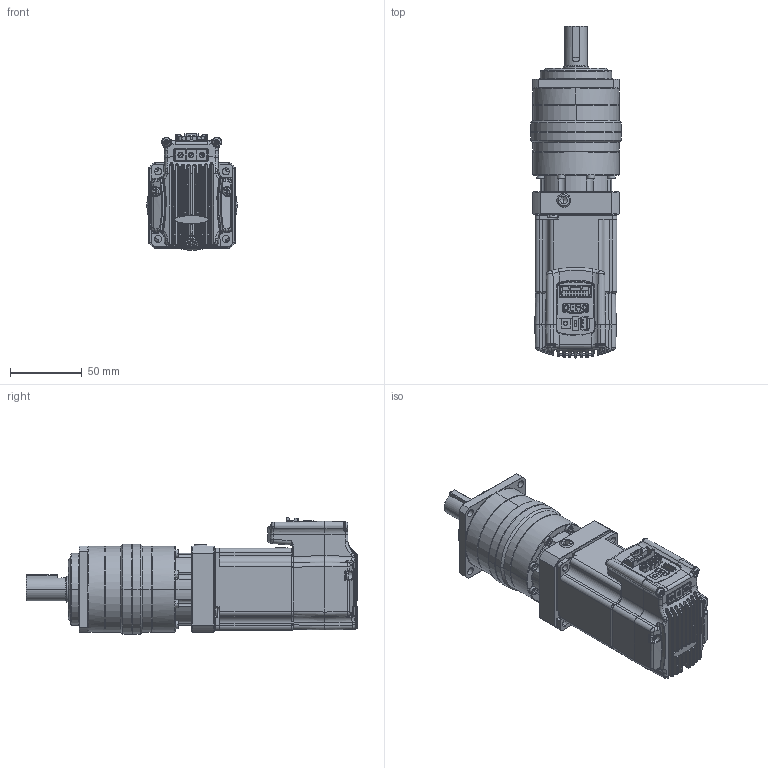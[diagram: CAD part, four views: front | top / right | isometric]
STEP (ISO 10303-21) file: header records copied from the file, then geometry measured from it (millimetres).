
FILE_DESCRIPTION (( 'STEP AP203' ), '1' );
FILE_NAME ('130416 Ezi-SERVO PG-ALL-56M-PN15~50.STEP', '2013-04-17T01:29:47', ( '' ), ( '' ), 'SwSTEP 2.0', 'SolidWorks 2012', '' );
FILE_SCHEMA (( 'CONFIG_CONTROL_DESIGN' ));
Products named in the file (44): 130416 Ezi-SERVO PG-ALL-56M-PN15~50; ST56 2ST; M3 TAPPING SCREW.2_6; M3 TAPPING SCREW.1_6; M3 MACHIN SCREW.3_1; M3 MACHIN SCREW.2_1; M3 MACHIN SCREW.1_1; CASE RR-TYPE B_1; CASE FRT_5; NAME PLATE_5; CONNECTOR PCB_5; DISPLAY PCB_5; POWER PARTS.7_5; POWER PARTS.6_5; POWER PARTS.5_5; POWER PARTS.4_5; POWER PARTS.3_5; POWER PARTS.2_5; POWER PARTS.1_5; MAIN PCB.2_5; MAIN PCB.1_5; _X2_D30CD2B8_X0_80_5; _X2_D30CD2B8_X0_79_5; _X2_D30CD2B8_X0_78_5; _X2_D30CD2B8_X0_75_6_2; _X2_D30CD2B8_X0_75_6; _X2_D30CD2B8_X0_73_6_2; _X2_D30CD2B8_X0_73_6; _X2_D30CD2B8_X0_69_5; MSBR_5; UPPER COVER_5; TRM_SRF_5; _X2_D30CD2B8_X0_115_1; _X2_D30CD2B8_X0_96_7_3; _X2_D30CD2B8_X0_94_7_3; _X2_D30CD2B8_X0_96_7_2; _X2_D30CD2B8_X0_94_7_2; _X2_D30CD2B8_X0_96_7; _X2_D30CD2B8_X0_94_7; F191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
Assembly tree (43 placements, depth 2):
  130416 Ezi-SERVO PG-ALL-56M-PN15~50
    F123
    F134
    F153
    F172
    F191
    _X2_D30CD2B8_X0_94_7
    _X2_D30CD2B8_X0_96_7
    _X2_D30CD2B8_X0_94_7_2
    _X2_D30CD2B8_X0_96_7_2
    _X2_D30CD2B8_X0_94_7_3
    _X2_D30CD2B8_X0_96_7_3
    _X2_D30CD2B8_X0_115_1
    TRM_SRF_5
    UPPER COVER_5
    MSBR_5
    _X2_D30CD2B8_X0_69_5
    _X2_D30CD2B8_X0_73_6
    _X2_D30CD2B8_X0_73_6_2
    _X2_D30CD2B8_X0_75_6
    _X2_D30CD2B8_X0_75_6_2
    _X2_D30CD2B8_X0_78_5
    _X2_D30CD2B8_X0_79_5
    _X2_D30CD2B8_X0_80_5
    MAIN PCB.1_5
    MAIN PCB.2_5
    POWER PARTS.1_5
    POWER PARTS.2_5
    POWER PARTS.3_5
    POWER PARTS.4_5
    POWER PARTS.5_5
    POWER PARTS.6_5
    POWER PARTS.7_5
    DISPLAY PCB_5
    CONNECTOR PCB_5
    NAME PLATE_5
    CASE FRT_5
    CASE RR-TYPE B_1
    M3 MACHIN SCREW.1_1
    M3 MACHIN SCREW.2_1
    M3 MACHIN SCREW.3_1
    M3 TAPPING SCREW.1_6
    M3 TAPPING SCREW.2_6
    ST56 2ST
Bounding box: 63 x 231.21 x 81.43 mm (x, y, z)
Volume: 503578.1 mm3; surface area: 126602.7 mm2
Topology: 41 solids, 43 shells, 3662 faces, 9204 edges, 5637 vertices
Faces by surface type: plane 1602, cylinder 1133, bspline 669, cone 204, torus 54
Entity records: 171775 total; most frequent: CARTESIAN_POINT 88174, ORIENTED_EDGE 18130, DIRECTION 13409, EDGE_CURVE 9087, VERTEX_POINT 5637, AXIS2_PLACEMENT_3D 4505, LINE 4399, VECTOR 4399
